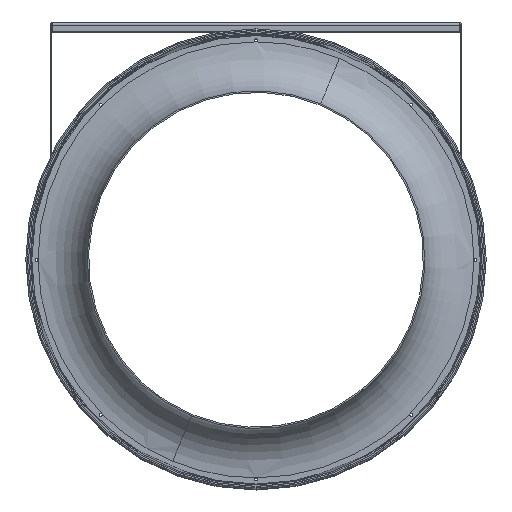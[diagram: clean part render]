
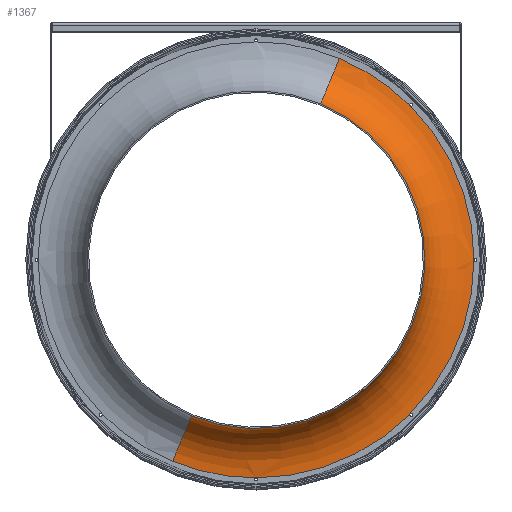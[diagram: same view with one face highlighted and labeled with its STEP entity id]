
A CAD part, top view. The second image highlights one B-rep face of the part: STEP entity #1367.
In plain terms, the highlighted toroidal (fillet/blend) face has major radius 151 mm and minor radius 35 mm.
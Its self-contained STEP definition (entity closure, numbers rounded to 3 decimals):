
#1367 = ADVANCED_FACE ( 'NONE', ( #5180 ), #5173, .T. ) ;
#2056 = CIRCLE ( 'NONE', #4631, 151. ) ;
#2112 = CIRCLE ( 'NONE', #4666, 35. ) ;
#2128 = CIRCLE ( 'NONE', #4674, 151. ) ;
#2246 = EDGE_LOOP ( 'NONE', ( #11088, #11091, #11090, #11093, #11092, #11070, #11071, #11068 ) ) ;
#3873 = CARTESIAN_POINT ( 'NONE',  ( -0.681, 3.853, -180.515 ) ) ;
#3874 = DIRECTION ( 'NONE',  ( 0., 0., -1. ) ) ;
#3875 = DIRECTION ( 'NONE',  ( 0.383, 0.924, 0. ) ) ;
#3876 = CARTESIAN_POINT ( 'NONE',  ( -0.681, 3.853, -180.515 ) ) ;
#3877 = DIRECTION ( 'NONE',  ( 0., 0., -1. ) ) ;
#3878 = DIRECTION ( 'NONE',  ( 0.383, 0.924, 0. ) ) ;
#3884 = CARTESIAN_POINT ( 'NONE',  ( -0.681, 3.853, -180.515 ) ) ;
#3885 = DIRECTION ( 'NONE',  ( 0., 0., -1. ) ) ;
#3886 = DIRECTION ( 'NONE',  ( 0.383, 0.924, 0. ) ) ;
#3946 = EDGE_CURVE ( 'NONE', #5890, #5912, #2056, .T. ) ;
#3993 = EDGE_CURVE ( 'NONE', #13252, #5896, #2112, .T. ) ;
#4005 = EDGE_CURVE ( 'NONE', #6001, #5890, #2128, .T. ) ;
#4631 = AXIS2_PLACEMENT_3D ( 'NONE', #5406, #5407, #5408 ) ;
#4666 = AXIS2_PLACEMENT_3D ( 'NONE', #5574, #5575, #5576 ) ;
#4674 = AXIS2_PLACEMENT_3D ( 'NONE', #5607, #5608, #5609 ) ;
#5173 = TOROIDAL_SURFACE ( 'NONE', #6270, 151., 35. ) ;
#5180 = FACE_OUTER_BOUND ( 'NONE', #2246, .T. ) ;
#5406 = CARTESIAN_POINT ( 'NONE',  ( -0.681, 3.853, -180.515 ) ) ;
#5407 = DIRECTION ( 'NONE',  ( 0., 0., -1. ) ) ;
#5408 = DIRECTION ( 'NONE',  ( 0.383, 0.924, 0. ) ) ;
#5574 = CARTESIAN_POINT ( 'NONE',  ( 57.104, 143.359, -145.515 ) ) ;
#5575 = DIRECTION ( 'NONE',  ( 0.924, -0.383, 0. ) ) ;
#5576 = DIRECTION ( 'NONE',  ( 0.383, 0.924, 0. ) ) ;
#5607 = CARTESIAN_POINT ( 'NONE',  ( -0.681, 3.853, -180.515 ) ) ;
#5608 = DIRECTION ( 'NONE',  ( 0., 0., -1. ) ) ;
#5609 = DIRECTION ( 'NONE',  ( 0.383, 0.924, 0. ) ) ;
#5890 = VERTEX_POINT ( 'NONE', #12290 ) ;
#5896 = VERTEX_POINT ( 'NONE', #12291 ) ;
#5912 = VERTEX_POINT ( 'NONE', #12298 ) ;
#5985 = VERTEX_POINT ( 'NONE', #12356 ) ;
#5992 = VERTEX_POINT ( 'NONE', #12363 ) ;
#6001 = VERTEX_POINT ( 'NONE', #12372 ) ;
#6082 = VERTEX_POINT ( 'NONE', #12453 ) ;
#6270 = AXIS2_PLACEMENT_3D ( 'NONE', #6318, #6434, #6379 ) ;
#6318 = CARTESIAN_POINT ( 'NONE',  ( -0.681, 3.853, -145.515 ) ) ;
#6379 = DIRECTION ( 'NONE',  ( -0.383, -0.924, 0. ) ) ;
#6434 = DIRECTION ( 'NONE',  ( 0., 0., 1. ) ) ;
#8955 = CARTESIAN_POINT ( 'NONE',  ( 43.71, 111.023, -145.515 ) ) ;
#9062 = CARTESIAN_POINT ( 'NONE',  ( -0.681, 3.853, -145.515 ) ) ;
#9063 = DIRECTION ( 'NONE',  ( 0., 0., 1. ) ) ;
#9064 = DIRECTION ( 'NONE',  ( -0.383, -0.924, 0. ) ) ;
#9099 = CARTESIAN_POINT ( 'NONE',  ( -58.466, -135.653, -145.515 ) ) ;
#9100 = DIRECTION ( 'NONE',  ( -0.924, 0.383, 0. ) ) ;
#9101 = DIRECTION ( 'NONE',  ( -0.383, -0.924, 0. ) ) ;
#11068 = ORIENTED_EDGE ( 'NONE', *, *, #14590, .F. ) ;
#11070 = ORIENTED_EDGE ( 'NONE', *, *, #3946, .T. ) ;
#11071 = ORIENTED_EDGE ( 'NONE', *, *, #14684, .T. ) ;
#11088 = ORIENTED_EDGE ( 'NONE', *, *, #14577, .T. ) ;
#11090 = ORIENTED_EDGE ( 'NONE', *, *, #14686, .T. ) ;
#11091 = ORIENTED_EDGE ( 'NONE', *, *, #3993, .T. ) ;
#11092 = ORIENTED_EDGE ( 'NONE', *, *, #4005, .T. ) ;
#11093 = ORIENTED_EDGE ( 'NONE', *, *, #14683, .T. ) ;
#11913 = CIRCLE ( 'NONE', #13063, 35. ) ;
#12029 = CIRCLE ( 'NONE', #13111, 151. ) ;
#12031 = CIRCLE ( 'NONE', #13112, 151. ) ;
#12033 = CIRCLE ( 'NONE', #13114, 151. ) ;
#12290 = CARTESIAN_POINT ( 'NONE',  ( 106.092, -102.92, -180.515 ) ) ;
#12291 = CARTESIAN_POINT ( 'NONE',  ( 57.104, 143.359, -180.515 ) ) ;
#12298 = CARTESIAN_POINT ( 'NONE',  ( -0.681, -147.147, -180.515 ) ) ;
#12356 = CARTESIAN_POINT ( 'NONE',  ( -45.072, -103.317, -145.515 ) ) ;
#12363 = CARTESIAN_POINT ( 'NONE',  ( -58.466, -135.653, -180.515 ) ) ;
#12372 = CARTESIAN_POINT ( 'NONE',  ( 150.319, 3.853, -180.515 ) ) ;
#12453 = CARTESIAN_POINT ( 'NONE',  ( 106.092, 110.626, -180.515 ) ) ;
#13053 = AXIS2_PLACEMENT_3D ( 'NONE', #9062, #9063, #9064 ) ;
#13063 = AXIS2_PLACEMENT_3D ( 'NONE', #9099, #9100, #9101 ) ;
#13111 = AXIS2_PLACEMENT_3D ( 'NONE', #3873, #3874, #3875 ) ;
#13112 = AXIS2_PLACEMENT_3D ( 'NONE', #3876, #3877, #3878 ) ;
#13114 = AXIS2_PLACEMENT_3D ( 'NONE', #3884, #3885, #3886 ) ;
#13252 = VERTEX_POINT ( 'NONE', #8955 ) ;
#13587 = CIRCLE ( 'NONE', #13053, 116. ) ;
#14577 = EDGE_CURVE ( 'NONE', #5985, #13252, #13587, .T. ) ;
#14590 = EDGE_CURVE ( 'NONE', #5985, #5992, #11913, .T. ) ;
#14683 = EDGE_CURVE ( 'NONE', #6082, #6001, #12029, .T. ) ;
#14684 = EDGE_CURVE ( 'NONE', #5912, #5992, #12031, .T. ) ;
#14686 = EDGE_CURVE ( 'NONE', #5896, #6082, #12033, .T. ) ;
